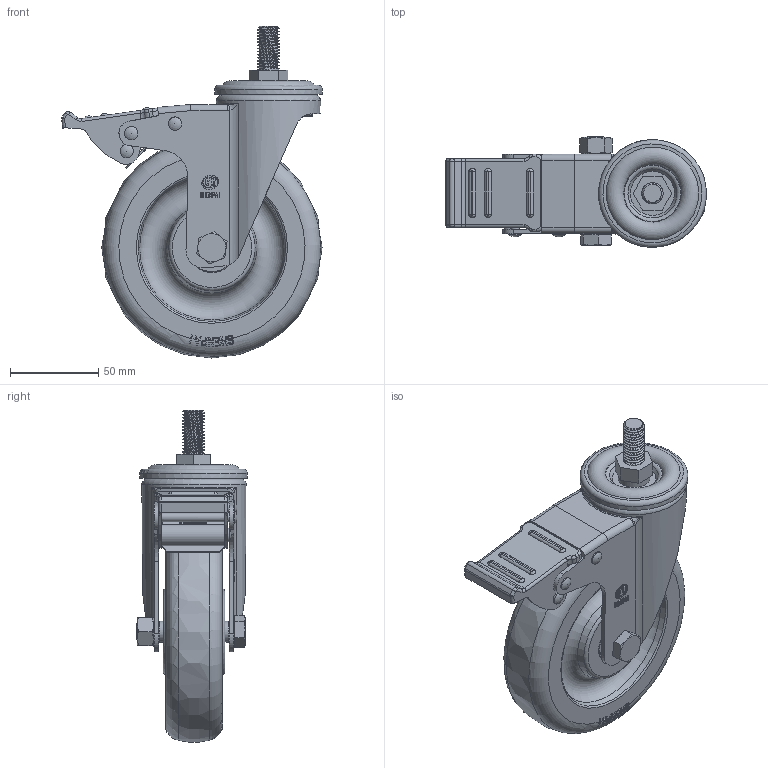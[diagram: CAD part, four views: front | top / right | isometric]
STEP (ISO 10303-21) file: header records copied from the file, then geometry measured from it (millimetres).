
FILE_DESCRIPTION(/* description */ (''),/* implementation_level */ '2;1');
FILE_NAME(/* name */ '20A32_5_F.stp',/* time_stamp */ '2022-09-03T10:47:00+08:00',/* author */ (''),/* organization */ (''),/* preprocessor_version */ 'ST-DEVELOPER v14',/* originating_system */ 'SIEMENS PLM Software NX 8.0',/* authorisation */ '');
FILE_SCHEMA (('AUTOMOTIVE_DESIGN { 1 0 10303 214 3 1 1 1 }'));
Length unit declared in the file: millimetre
Products named in the file (1): 20A32_5_F
Bounding box: 147.53 x 62.75 x 187.88 mm (x, y, z)
Surface area: 109820 mm2
Topology: 1 solids, 2 shells, 1123 faces, 3264 edges, 2145 vertices
Faces by surface type: plane 579, cylinder 278, torus 120, sphere 45, cone 44, extrusion 34, bspline 23
Full cylindrical faces by diameter (mm): 4 x3, 5 x3, 5.2 x8, 7.5 x3, 10 x1, 11.8 x3, 12 x3, 12.2 x1, 12.496 x1, 16 x1, 16.8 x1, 18 x1, 24 x1, 28 x2, 30.122 x1, 45.996 x1, 54 x1, 56 x1, 59 x1, 61 x1
Entity records: 45681 total; most frequent: CARTESIAN_POINT 18772, ORIENTED_EDGE 5944, DIRECTION 5003, EDGE_CURVE 2972, VERTEX_POINT 2000, AXIS2_PLACEMENT_3D 1863, EDGE_LOOP 1300, VECTOR 1277
